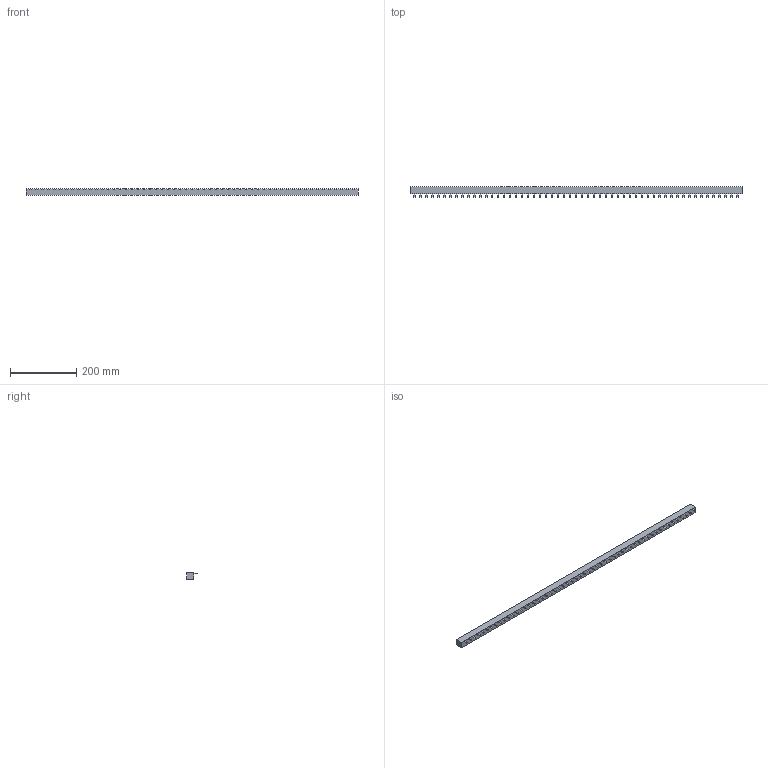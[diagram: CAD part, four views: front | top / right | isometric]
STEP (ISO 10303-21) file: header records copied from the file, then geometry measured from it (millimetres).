
FILE_DESCRIPTION (( 'STEP AP214' ), '1' );
FILE_NAME ('Øèíà 4P 1000.STEP', '2024-03-07T06:40:34', ( '' ), ( '' ), 'SwSTEP 2.0', 'SolidWorks 2018', '' );
FILE_SCHEMA (( 'AUTOMOTIVE_DESIGN' ));
Length unit declared in the file: millimetre
Products named in the file (1): 嵙縺 4P 1000
Bounding box: 1000 x 33 x 19.5 mm (x, y, z)
Volume: 436226.4 mm3; surface area: 90681 mm2
Topology: 1 solids, 1 shells, 281 faces, 672 edges, 448 vertices
Faces by surface type: plane 281
Entity records: 8000 total; most frequent: CARTESIAN_POINT 1402, ORIENTED_EDGE 1344, DIRECTION 1236, LINE 672, VECTOR 672, EDGE_CURVE 672, VERTEX_POINT 448, EDGE_LOOP 336
